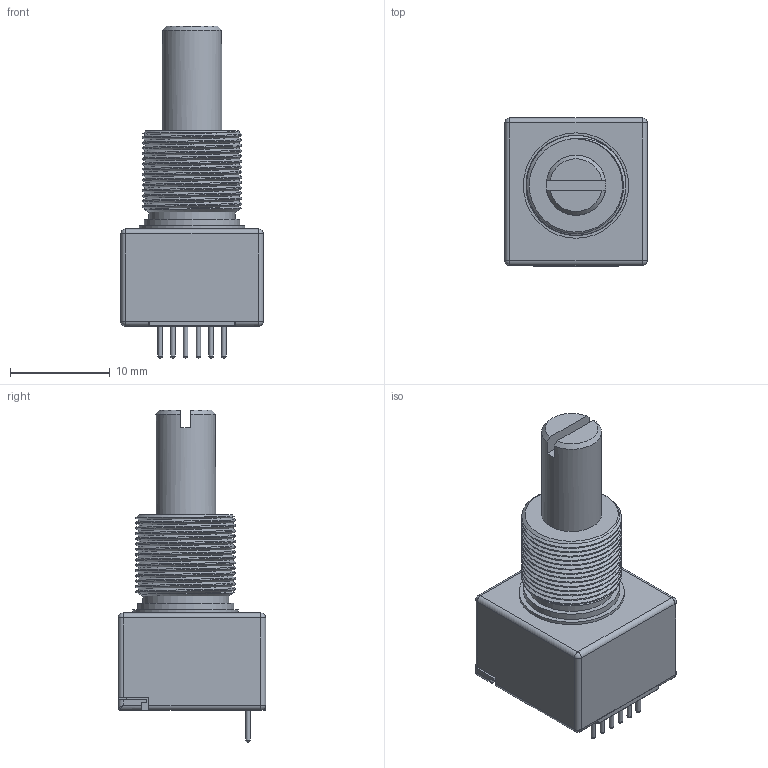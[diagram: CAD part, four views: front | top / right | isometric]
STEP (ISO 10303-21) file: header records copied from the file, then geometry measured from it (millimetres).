
FILE_DESCRIPTION(/* description */ ('Unknown'),/* implementation_level */ '2;1');
FILE_NAME(/* name */ 'EM14R0D-R20-L064S',/* time_stamp */ '2023-10-20T10:00:20+02:00',/* author */ ('Unknown'),/* organization */ ('Unknown'),/* preprocessor_version */ 'ST-DEVELOPER v18.102',/* originating_system */ 'Solid Edge',/* authorisation */ 'Unknown');
FILE_SCHEMA (('AUTOMOTIVE_DESIGN {1 0 10303 214 3 1 1}'));
Length unit declared in the file: millimetre
Products named in the file (1): EM14R0D-R20-L064S
Bounding box: 14.25 x 14.8 x 33.21 mm (x, y, z)
Volume: 3035.8 mm3; surface area: 1723.9 mm2
Topology: 1 solids, 1 shells, 104 faces, 251 edges, 149 vertices
Faces by surface type: plane 50, cylinder 32, sphere 8, torus 6, cone 4, bspline 4
Full cylindrical faces by diameter (mm): 0.457 x6, 6 x1, 8.613 x1, 9.592 x1, 10.54 x1
Entity records: 5295 total; most frequent: CARTESIAN_POINT 2292, DIRECTION 479, ORIENTED_EDGE 432, EDGE_CURVE 216, AXIS2_PLACEMENT_3D 179, VERTEX_POINT 141, EDGE_LOOP 131, FACE_BOUND 131
